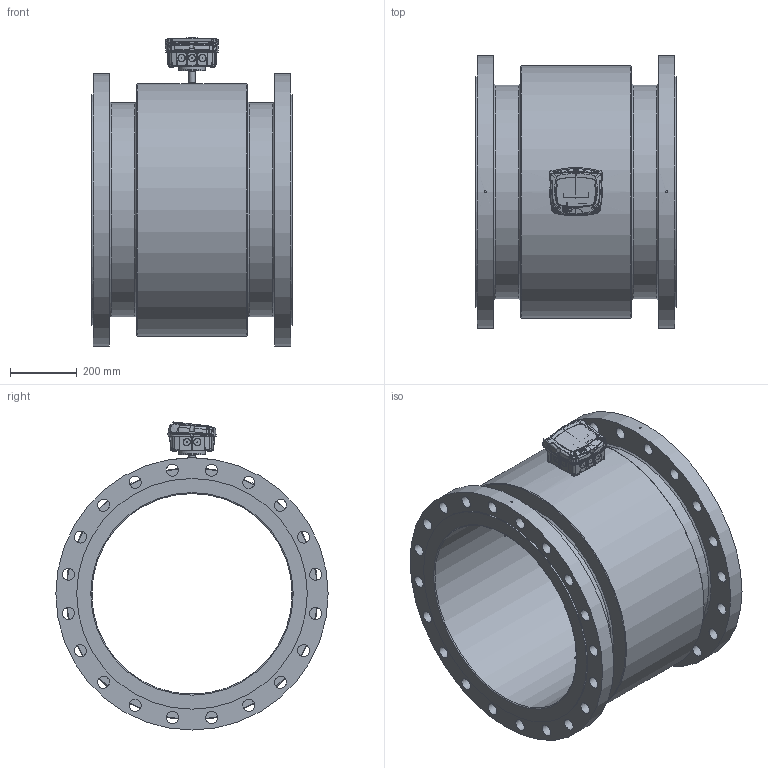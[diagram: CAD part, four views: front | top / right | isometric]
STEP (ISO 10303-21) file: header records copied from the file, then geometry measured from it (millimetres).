
FILE_DESCRIPTION((''),'2;1');
FILE_NAME('C:\Users\Claus\Dropbox\Projects 2011 - 2012\MJK Automation AS\DN 600 - ANSI B16,5.stp','2014-10-24T15:11:03',('Claus'),(''),'Autodesk Inventor 2013','Autodesk Inventor 2013','');
FILE_SCHEMA(('AUTOMOTIVE_DESIGN { 1 0 10303 214 1 1 1 1 }'));
Length unit declared in the file: millimetre
Products named in the file (7): DN 600 - ANSI B16,5; FC_MagFlux_assembly_r1; CH Bund ml; FC Top rev 06.04; CH 03.02; Electrode group DN15 - DN32
Assembly tree (8 placements, depth 3):
  DN 600 - ANSI B16,5
    DN 600 - ANSI B16,5
    FC_MagFlux_assembly_r1
      CH Bund ml
      FC Top rev 06.04
      CH 03.02
    Electrode group DN15 - DN32  x3
Bounding box: 600 x 815 x 921.84 mm (x, y, z)
Volume: 83823667.5 mm3; surface area: 4000077.2 mm2
Topology: 10 solids, 10 shells, 2959 faces, 8066 edges, 5251 vertices
Faces by surface type: bspline 1752, plane 810, cylinder 234, cone 123, torus 25, revolution 9, sphere 6
Full cylindrical faces by diameter (mm): 2.5 x3, 3 x6, 4 x1, 6 x2, 6.5 x4, 7.042 x4, 8 x3, 8.048 x4, 12.072 x4, 15 x1, 18 x1, 18.108 x1, 36 x40, 64 x1, 600 x1, 640 x2, 690 x2, 756 x1, 815 x2
Entity records: 234882 total; most frequent: CARTESIAN_POINT 171690, ORIENTED_EDGE 15592, DIRECTION 7901, EDGE_CURVE 7796, VERTEX_POINT 5189, EDGE_LOOP 3369, VECTOR 3112, LINE 3112
